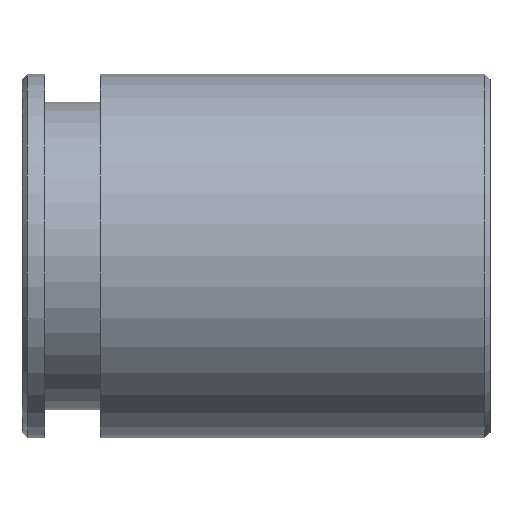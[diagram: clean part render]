
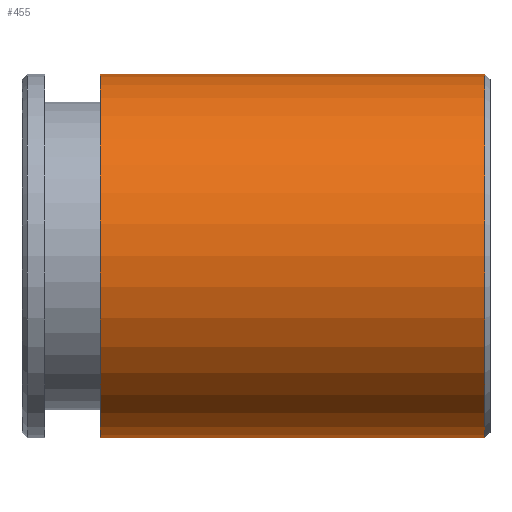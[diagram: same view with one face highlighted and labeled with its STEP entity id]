
A CAD part, top view. The second image highlights one B-rep face of the part: STEP entity #455.
In plain terms, the highlighted cylindrical face has radius 17.5 mm (diameter 35 mm), a partial arc.
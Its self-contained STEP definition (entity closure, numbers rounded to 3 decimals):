
#95=CARTESIAN_POINT('',(44.5,0.,0.));
#96=DIRECTION('',(1.,0.,0.));
#97=DIRECTION('',(0.,1.,0.));
#98=AXIS2_PLACEMENT_3D('',#95,#96,#97);
#103=DIRECTION('',(-1.,0.,0.));
#104=VECTOR('',#103,37.);
#105=CARTESIAN_POINT('',(44.5,17.5,0.));
#106=LINE('',#105,#104);
#110=DIRECTION('',(-1.,0.,0.));
#111=VECTOR('',#110,37.);
#112=CARTESIAN_POINT('',(44.5,-17.5,0.));
#113=LINE('',#112,#111);
#125=CARTESIAN_POINT('',(7.5,0.,0.));
#126=DIRECTION('',(1.,0.,0.));
#127=DIRECTION('',(0.,1.,0.));
#128=AXIS2_PLACEMENT_3D('',#125,#126,#127);
#314=CARTESIAN_POINT('',(44.5,17.5,0.));
#316=VERTEX_POINT('',#314);
#317=CARTESIAN_POINT('',(7.5,17.5,0.));
#318=VERTEX_POINT('',#317);
#338=CARTESIAN_POINT('',(44.5,-17.5,0.));
#340=VERTEX_POINT('',#338);
#341=CARTESIAN_POINT('',(7.5,-17.5,0.));
#342=VERTEX_POINT('',#341);
#441=CARTESIAN_POINT('',(-2.25,0.,0.));
#442=DIRECTION('',(1.,0.,0.));
#443=DIRECTION('',(0.,-1.,0.));
#444=AXIS2_PLACEMENT_3D('',#441,#442,#443);
#445=CYLINDRICAL_SURFACE('',#444,17.5);
#447=ORIENTED_EDGE('',*,*,#446,.F.);
#448=ORIENTED_EDGE('',*,*,#436,.T.);
#450=ORIENTED_EDGE('',*,*,#449,.T.);
#452=ORIENTED_EDGE('',*,*,#451,.F.);
#453=EDGE_LOOP('',(#447,#448,#450,#452));
#454=FACE_OUTER_BOUND('',#453,.F.);
#99=CIRCLE('',#98,17.5);
#129=CIRCLE('',#128,17.5);
#436=EDGE_CURVE('',#316,#340,#99,.T.);
#446=EDGE_CURVE('',#316,#318,#106,.T.);
#449=EDGE_CURVE('',#340,#342,#113,.T.);
#451=EDGE_CURVE('',#318,#342,#129,.T.);
#455=ADVANCED_FACE('',(#454),#445,.T.);
